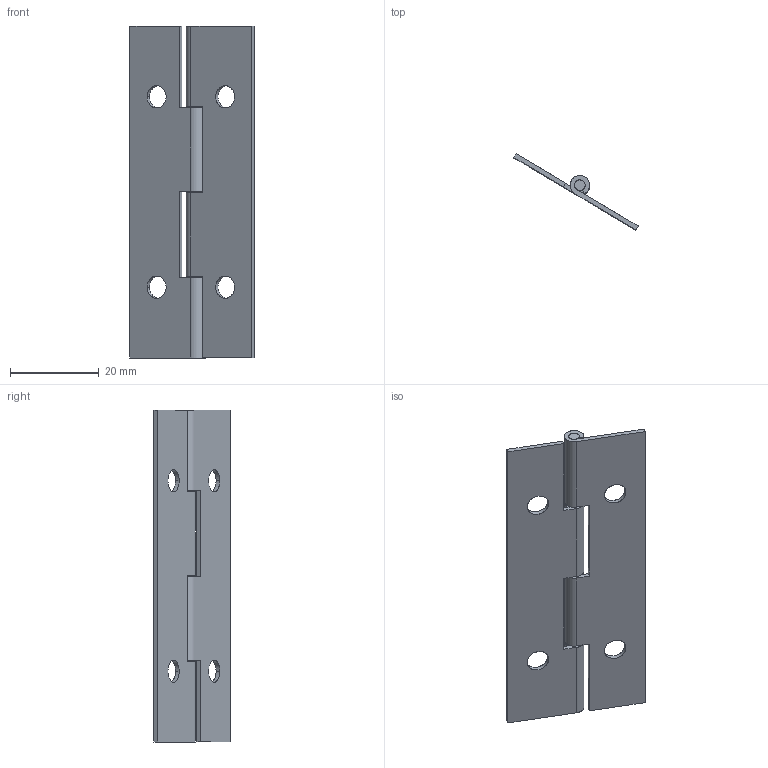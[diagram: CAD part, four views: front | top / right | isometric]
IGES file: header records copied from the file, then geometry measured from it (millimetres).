
Start section: SolidWorks IGES file using analytic representation for surfaces
Global section: file name: Z:\Mes documents\ATAO iges\Gamme CL\CL 418\CL 418.IGS; native system: SolidWorks 2008; preprocessor: SolidWorks 2008; author: cbrechard; date: 110628.182539; units: millimetre
Bounding box: 28.04 x 17.17 x 75 mm (x, y, z)
Surface area: 6584.1 mm2 (no closed solid volume)
Topology: 0 solids, 0 shells, 60 faces, 992 edges, 992 vertices
Faces by surface type: revolution 34, bspline 26
